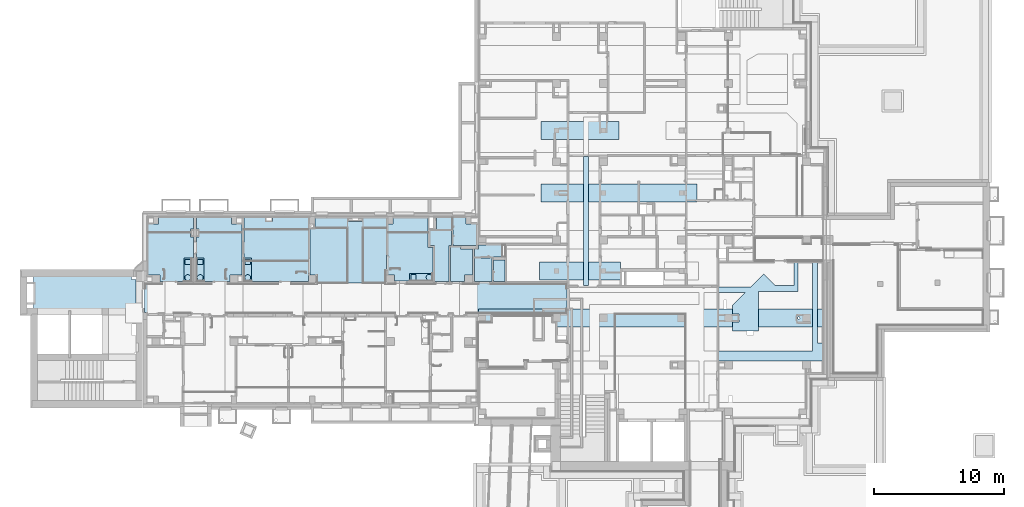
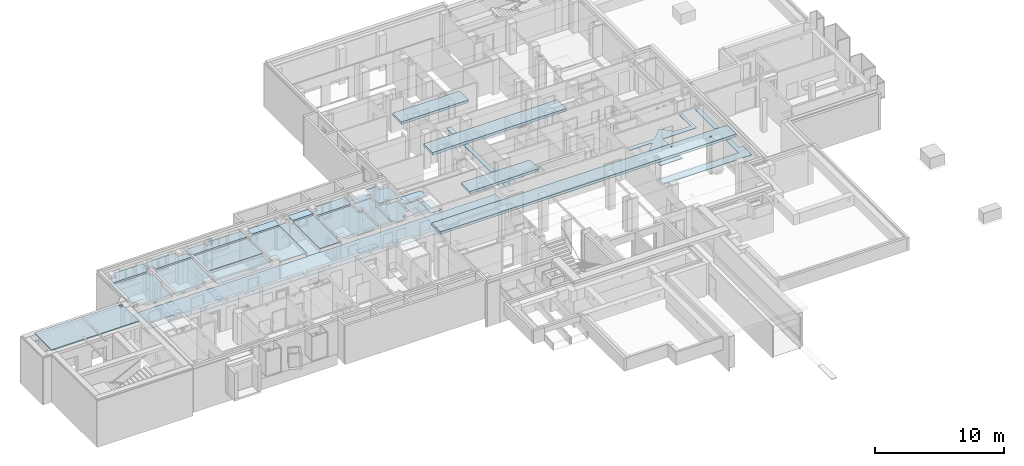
# One storey, part 6 of 84: 33 slabs, 3 openings.
"""IFC4 building model written with IfcOpenShell, lengths in metres."""

from ifc_helpers import new_model, entity, si_unit, converted_unit, derived_unit, frame, frame_2d, origin, origin_with_axes, place, context, subcontext, project, spatial, polyline, rectangle, circle, outline, extrude, material, element, save


model = new_model("IFC4")

# Units and contexts
model_context = context("Model", 3, precision=1e-05, world=origin())
body_context = subcontext(model_context, "Body", "Model", "MODEL_VIEW")
ifc_project = project(units=[si_unit("LENGTHUNIT", "METRE"), si_unit("AREAUNIT", "SQUARE_METRE"), si_unit("VOLUMEUNIT", "CUBIC_METRE"), si_unit("MASSUNIT", "GRAM", prefix="KILO"), converted_unit("PLANEANGLEUNIT", "DEGREE", entity("IfcPlaneAngleMeasure", 0.0174532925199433), si_unit("PLANEANGLEUNIT", "RADIAN"), dimensions=[0, 0, 0, 0, 0, 0, 0]), derived_unit("THERMALTRANSMITTANCEUNIT", [(si_unit("POWERUNIT", "WATT"), 1), (si_unit("THERMODYNAMICTEMPERATUREUNIT", "KELVIN"), -1), (si_unit("LENGTHUNIT", "METRE"), -2)]), derived_unit("VOLUMETRICFLOWRATEUNIT", [(si_unit("LENGTHUNIT", "METRE"), 3), (converted_unit("TIMEUNIT", "hour", entity("IfcTimeMeasure", 3600.0), si_unit("TIMEUNIT", "SECOND"), dimensions=[0, 0, 1, 0, 0, 0, 0]), -1), (si_unit("LENGTHUNIT", "METRE"), -1)])], contexts=[model_context])

# Site, building, storey
site_placement = place(None, origin())
site = spatial("IfcSite", under=ifc_project, at=site_placement, Name="3. ASŘ", CompositionType="ELEMENT")
building_placement = place(site_placement, origin())
building = spatial("IfcBuilding", under=site, at=building_placement, Name="Pavilon C", CompositionType="ELEMENT")
storey_placement = place(building_placement, frame((0.0, 0.0, -3.3)))
storey = spatial("IfcBuildingStorey", under=building, at=storey_placement, Name="Půdorys 1.PP", CompositionType="ELEMENT", Elevation=-3.3)

# Slab
ifc_material_1 = material(Name="RZT")
slab_1_placement = place(storey_placement, frame((29.55, 20.9, 2.95)))
element("IfcSlab", 1, at=slab_1_placement, inside=storey, material=ifc_material_1, PredefinedType="FLOOR", context=body_context, shape_type="SweptSolid", body=[
    extrude(rectangle(XDim=1.4, YDim=6.0, at=frame_2d((-3.0, 0.7), x_axis=(0.0, 1.0))), frame((6.0, 0.0, 0.0), z_axis=(0.0, 0.0, 1.0), x_axis=(1.0, 0.0, 0.0)), (0.0, 0.0, 1.0), 0.25),
])

# Slab, opening
ifc_material_2 = material(Name="PZD")
slab_2_placement = place(storey_placement, frame((-9.37499999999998, 7.80000000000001, 3.08)))
slab_2 = element("IfcSlab", 2, at=slab_2_placement, inside=storey, material=ifc_material_2, PredefinedType="FLOOR", context=body_context, shape_type="SweptSolid", body=[
    extrude(rectangle(XDim=7.84999999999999, YDim=2.70000000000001, at=frame_2d((3.925, 1.35), x_axis=(1.0, 0.0))), origin_with_axes(), (0.0, 0.0, 1.0), 0.1),
])
opening_1_placement = place(slab_2_placement, frame((7.49999999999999, 2.35, 0.0)))
element("IfcOpeningElement", 3, at=opening_1_placement, cuts=slab_2, Name="Prostup deskou", ObjectType="Opening", context=body_context, shape_type="SweptSolid", body=[
    extrude(rectangle(XDim=0.2, YDim=0.35, at=frame_2d((0.0, 1.81898940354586e-15), x_axis=(0.0, -1.0))), frame((0.175, 0.0999999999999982, 0.0), z_axis=(0.0, 0.0, 1.0), x_axis=(1.0, 0.0, 0.0)), (0.0, 0.0, 1.0), 0.1),
])

# Slabs
ifc_material_3 = material(Name="RZT")
slab_3_placement = place(storey_placement, frame((29.45, 10.1, 2.95)))
element("IfcSlab", 4, at=slab_3_placement, inside=storey, material=ifc_material_3, PredefinedType="FLOOR", context=body_context, shape_type="SweptSolid", body=[
    extrude(rectangle(XDim=1.4, YDim=6.2, at=frame_2d((-3.1, 0.7), x_axis=(0.0, 1.0))), frame((6.2, 0.0, 0.0), z_axis=(0.0, 0.0, 1.0), x_axis=(1.0, 0.0, 0.0)), (0.0, 0.0, 1.0), 0.25),
])
ifc_material_4 = material(Name="RZT")
slab_4_placement = place(storey_placement, frame((29.55, 16.1, 2.95)))
element("IfcSlab", 5, at=slab_4_placement, inside=storey, material=ifc_material_4, PredefinedType="FLOOR", context=body_context, shape_type="SweptSolid", body=[
    extrude(rectangle(XDim=1.4, YDim=12.0, at=frame_2d((-6.0, 0.7), x_axis=(0.0, 1.0))), frame((12.0, 0.0, 0.0), z_axis=(0.0, 0.0, 1.0), x_axis=(1.0, 0.0, 0.0)), (0.0, 0.0, 1.0), 0.25),
])

# Slab, openings
ifc_material_5 = material(Name="RZT")
slab_5_placement = place(storey_placement, frame((24.75, 6.49999999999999, 2.95)))
slab_5 = element("IfcSlab", 6, at=slab_5_placement, inside=storey, material=ifc_material_5, PredefinedType="FLOOR", context=body_context, shape_type="SweptSolid", body=[
    extrude(rectangle(XDim=1.4, YDim=26.5, at=frame_2d((-13.25, 0.700000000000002), x_axis=(0.0, 1.0))), frame((26.5, 0.0, 0.0), z_axis=(0.0, 0.0, 1.0), x_axis=(1.0, 0.0, 0.0)), (0.0, 0.0, 1.0), 0.25),
])
opening_2_placement = place(slab_5_placement, frame((24.525077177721, 0.625077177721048, 0.0)))
element("IfcOpeningElement", 7, at=opening_2_placement, cuts=slab_5, Name="Prostup deskou", ObjectType="Opening", context=body_context, shape_type="SweptSolid", body=[
    extrude(circle(Radius=0.0749999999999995, at=frame_2d((7.27595761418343e-15, 4.54747350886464e-15), x_axis=(1.0, 0.0))), frame((0.0749228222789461, 0.0749228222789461, 0.0), z_axis=(0.0, 0.0, 1.0), x_axis=(1.0, 0.0, 0.0)), (0.0, 0.0, 1.0), 0.25),
])
opening_3_placement = place(slab_5_placement, frame((21.2300280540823, 0.999964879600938, 0.0)))
element("IfcOpeningElement", 8, at=opening_3_placement, cuts=slab_5, Name="Prostup deskou", ObjectType="Opening", context=body_context, shape_type="SweptSolid", body=[
    extrude(circle(Radius=0.0500000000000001, at=frame_2d((2.18278728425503e-14, -9.09494701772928e-16), x_axis=(1.0, 0.0))), frame((0.0499485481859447, 0.0499485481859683, 0.0), z_axis=(0.0, 0.0, 1.0), x_axis=(1.0, 0.0, 0.0)), (0.0, 0.0, 1.0), 0.25),
])

# Slabs
ifc_material_6 = material(Name="Kuchyňská deska")
slab_6_placement = place(storey_placement, frame((2.15, 10.0, 0.82)))
element("IfcSlab", 9, at=slab_6_placement, inside=storey, material=ifc_material_6, PredefinedType="FLOOR", context=body_context, shape_type="SweptSolid", body=[
    extrude(outline(polyline([(0.6, 1.8), (0.0, 1.8), (9.09494701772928e-16, 0.0), (0.600000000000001, 0.0), (0.6, 1.8)]), holes=[polyline([(0.240471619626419, 0.0778370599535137), (0.211982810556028, 0.0875077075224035), (0.184999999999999, 0.10081415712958), (0.159984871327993, 0.117528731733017), (0.137365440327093, 0.137365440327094), (0.117528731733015, 0.159984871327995), (0.100814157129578, 0.185), (0.0875077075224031, 0.21198281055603), (0.0778370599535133, 0.24047161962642), (0.0719676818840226, 0.269978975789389), (0.0699999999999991, 0.3), (0.0719676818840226, 0.330021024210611), (0.0778370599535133, 0.35952838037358), (0.0875077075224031, 0.38801718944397), (0.100814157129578, 0.415), (0.117528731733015, 0.440015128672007), (0.137365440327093, 0.462634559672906), (0.159984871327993, 0.482471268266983), (0.184999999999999, 0.499185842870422), (0.211982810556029, 0.512492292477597), (0.240471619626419, 0.522162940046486), (0.269978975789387, 0.528032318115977), (0.299999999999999, 0.53), (0.330021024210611, 0.528032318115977), (0.359528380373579, 0.522162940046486), (0.38801718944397, 0.512492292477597), (0.414999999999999, 0.49918584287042), (0.440015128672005, 0.482471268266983), (0.462634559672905, 0.462634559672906), (0.482471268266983, 0.440015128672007), (0.49918584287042, 0.415), (0.512492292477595, 0.38801718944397), (0.522162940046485, 0.35952838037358), (0.528032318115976, 0.330021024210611), (0.529999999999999, 0.3), (0.528032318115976, 0.269978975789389), (0.522162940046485, 0.24047161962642), (0.512492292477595, 0.21198281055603), (0.49918584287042, 0.185), (0.482471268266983, 0.159984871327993), (0.462634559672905, 0.137365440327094), (0.440015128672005, 0.117528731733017), (0.414999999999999, 0.100814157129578), (0.38801718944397, 0.0875077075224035), (0.359528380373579, 0.0778370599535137), (0.330021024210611, 0.0719676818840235), (0.299999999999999, 0.07), (0.269978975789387, 0.0719676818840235), (0.240471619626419, 0.0778370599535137)]), polyline([(0.509387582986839, 1.32459577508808), (0.503796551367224, 1.31955947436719), (0.497319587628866, 1.31547423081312), (0.490153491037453, 1.31246417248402), (0.482515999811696, 1.31062075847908), (0.474639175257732, 1.31000000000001), (0.125360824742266, 1.31000000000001), (0.117484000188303, 1.31062075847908), (0.109846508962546, 1.31246417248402), (0.102680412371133, 1.31547423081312), (0.0962034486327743, 1.31955947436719), (0.0906124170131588, 1.32459577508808), (0.0860771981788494, 1.33043010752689), (0.0827355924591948, 1.33688519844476), (0.0806891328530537, 1.34376491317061), (0.0799999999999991, 1.35086021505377), (0.0799999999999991, 1.64913978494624), (0.0806891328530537, 1.65623508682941), (0.0827355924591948, 1.66311480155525), (0.0860771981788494, 1.66956989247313), (0.0906124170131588, 1.67540422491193), (0.0962034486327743, 1.68044052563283), (0.102680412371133, 1.6845257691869), (0.109846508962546, 1.68753582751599), (0.117484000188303, 1.68937924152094), (0.125360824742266, 1.69000000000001), (0.474639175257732, 1.69000000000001), (0.482515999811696, 1.68937924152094), (0.490153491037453, 1.68753582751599), (0.497319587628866, 1.6845257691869), (0.503796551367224, 1.68044052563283), (0.509387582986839, 1.67540422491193), (0.513922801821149, 1.66956989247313), (0.517264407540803, 1.66311480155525), (0.519310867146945, 1.65623508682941), (0.519999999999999, 1.64913978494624), (0.519999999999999, 1.35086021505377), (0.519310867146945, 1.34376491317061), (0.517264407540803, 1.33688519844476), (0.513922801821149, 1.33043010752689), (0.509387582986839, 1.32459577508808)])]), origin_with_axes(), (0.0, 0.0, 1.0), 0.03),
])
ifc_material_7 = material(Name="Kuchyňská deska")
slab_7_placement = place(storey_placement, frame((3.1, 10.0, 0.82)))
element("IfcSlab", 10, at=slab_7_placement, inside=storey, material=ifc_material_7, PredefinedType="FLOOR", context=body_context, shape_type="SweptSolid", body=[
    extrude(outline(polyline([(0.600000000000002, 1.8), (1.81898940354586e-15, 1.8), (0.0, 0.0), (0.6, 0.0), (0.600000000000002, 1.8)]), holes=[polyline([(0.359528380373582, 0.0778370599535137), (0.330021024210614, 0.0719676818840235), (0.300000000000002, 0.07), (0.26997897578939, 0.0719676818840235), (0.240471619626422, 0.0778370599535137), (0.211982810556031, 0.0875077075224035), (0.185000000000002, 0.100814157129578), (0.159984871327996, 0.117528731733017), (0.137365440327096, 0.137365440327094), (0.117528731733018, 0.159984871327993), (0.100814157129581, 0.185), (0.0875077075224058, 0.21198281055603), (0.077837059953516, 0.24047161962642), (0.0719676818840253, 0.269978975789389), (0.0700000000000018, 0.3), (0.0719676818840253, 0.330021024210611), (0.077837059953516, 0.35952838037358), (0.0875077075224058, 0.38801718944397), (0.100814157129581, 0.415), (0.117528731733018, 0.440015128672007), (0.137365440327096, 0.462634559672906), (0.159984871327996, 0.482471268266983), (0.185000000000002, 0.49918584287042), (0.211982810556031, 0.512492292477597), (0.240471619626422, 0.522162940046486), (0.26997897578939, 0.528032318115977), (0.300000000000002, 0.53), (0.330021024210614, 0.528032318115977), (0.359528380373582, 0.522162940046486), (0.388017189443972, 0.512492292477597), (0.415000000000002, 0.499185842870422), (0.440015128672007, 0.482471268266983), (0.462634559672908, 0.462634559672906), (0.482471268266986, 0.440015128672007), (0.499185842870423, 0.415), (0.512492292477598, 0.38801718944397), (0.522162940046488, 0.35952838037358), (0.528032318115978, 0.330021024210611), (0.530000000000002, 0.3), (0.528032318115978, 0.269978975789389), (0.522162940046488, 0.24047161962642), (0.512492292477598, 0.21198281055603), (0.499185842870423, 0.185), (0.482471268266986, 0.159984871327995), (0.462634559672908, 0.137365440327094), (0.440015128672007, 0.117528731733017), (0.415000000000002, 0.10081415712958), (0.388017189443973, 0.0875077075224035), (0.359528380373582, 0.0778370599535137)]), polyline([(0.0906124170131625, 1.32459577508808), (0.086077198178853, 1.33043010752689), (0.0827355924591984, 1.33688519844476), (0.0806891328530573, 1.34376491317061), (0.0800000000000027, 1.35086021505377), (0.0800000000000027, 1.64913978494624), (0.0806891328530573, 1.65623508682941), (0.0827355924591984, 1.66311480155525), (0.086077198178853, 1.66956989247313), (0.0906124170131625, 1.67540422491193), (0.096203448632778, 1.68044052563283), (0.102680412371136, 1.6845257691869), (0.109846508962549, 1.68753582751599), (0.117484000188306, 1.68937924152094), (0.12536082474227, 1.69000000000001), (0.474639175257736, 1.69000000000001), (0.482515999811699, 1.68937924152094), (0.490153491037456, 1.68753582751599), (0.497319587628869, 1.6845257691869), (0.503796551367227, 1.68044052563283), (0.509387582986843, 1.67540422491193), (0.513922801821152, 1.66956989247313), (0.517264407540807, 1.66311480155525), (0.519310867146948, 1.65623508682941), (0.520000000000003, 1.64913978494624), (0.520000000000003, 1.35086021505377), (0.519310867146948, 1.34376491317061), (0.517264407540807, 1.33688519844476), (0.513922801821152, 1.33043010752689), (0.509387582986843, 1.32459577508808), (0.503796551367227, 1.31955947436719), (0.497319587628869, 1.31547423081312), (0.490153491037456, 1.31246417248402), (0.482515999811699, 1.31062075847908), (0.474639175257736, 1.31000000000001), (0.12536082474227, 1.31000000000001), (0.117484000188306, 1.31062075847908), (0.109846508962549, 1.31246417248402), (0.102680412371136, 1.31547423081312), (0.096203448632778, 1.31955947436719), (0.0906124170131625, 1.32459577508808)])]), origin_with_axes(), (0.0, 0.0, 1.0), 0.03),
])
ifc_material_8 = material(Name="Kuchyňská deska")
slab_8_placement = place(storey_placement, frame((6.75, 10.0, 0.82)))
element("IfcSlab", 11, at=slab_8_placement, inside=storey, material=ifc_material_8, PredefinedType="FLOOR", context=body_context, shape_type="SweptSolid", body=[
    extrude(outline(polyline([(0.600000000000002, 1.8), (1.81898940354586e-15, 1.8), (0.0, 0.0), (0.6, 0.0), (0.600000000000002, 1.8)]), holes=[polyline([(0.359528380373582, 0.0778370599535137), (0.330021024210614, 0.0719676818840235), (0.300000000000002, 0.07), (0.26997897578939, 0.0719676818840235), (0.240471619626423, 0.0778370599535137), (0.211982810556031, 0.0875077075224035), (0.185000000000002, 0.100814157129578), (0.159984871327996, 0.117528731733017), (0.137365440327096, 0.137365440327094), (0.117528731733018, 0.159984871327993), (0.100814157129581, 0.185), (0.0875077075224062, 0.21198281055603), (0.0778370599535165, 0.24047161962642), (0.0719676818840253, 0.269978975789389), (0.0700000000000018, 0.3), (0.0719676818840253, 0.330021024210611), (0.0778370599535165, 0.35952838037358), (0.0875077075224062, 0.38801718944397), (0.100814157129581, 0.415), (0.117528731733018, 0.440015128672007), (0.137365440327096, 0.462634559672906), (0.159984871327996, 0.482471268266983), (0.185000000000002, 0.49918584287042), (0.211982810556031, 0.512492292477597), (0.240471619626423, 0.522162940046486), (0.26997897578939, 0.528032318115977), (0.300000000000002, 0.53), (0.330021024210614, 0.528032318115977), (0.359528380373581, 0.522162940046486), (0.388017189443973, 0.512492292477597), (0.415000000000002, 0.499185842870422), (0.440015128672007, 0.482471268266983), (0.462634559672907, 0.462634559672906), (0.482471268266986, 0.440015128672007), (0.499185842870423, 0.415), (0.512492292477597, 0.38801718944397), (0.522162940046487, 0.35952838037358), (0.528032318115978, 0.330021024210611), (0.530000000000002, 0.3), (0.528032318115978, 0.269978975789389), (0.522162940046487, 0.24047161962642), (0.512492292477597, 0.21198281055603), (0.499185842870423, 0.185), (0.482471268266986, 0.159984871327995), (0.462634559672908, 0.137365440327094), (0.440015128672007, 0.117528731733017), (0.415000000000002, 0.10081415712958), (0.388017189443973, 0.0875077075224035), (0.359528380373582, 0.0778370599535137)]), polyline([(0.0906124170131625, 1.32459577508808), (0.086077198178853, 1.33043010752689), (0.0827355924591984, 1.33688519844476), (0.0806891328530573, 1.34376491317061), (0.0800000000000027, 1.35086021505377), (0.0800000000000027, 1.64913978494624), (0.0806891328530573, 1.65623508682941), (0.0827355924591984, 1.66311480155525), (0.086077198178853, 1.66956989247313), (0.0906124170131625, 1.67540422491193), (0.0962034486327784, 1.68044052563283), (0.102680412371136, 1.6845257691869), (0.109846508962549, 1.68753582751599), (0.117484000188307, 1.68937924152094), (0.12536082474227, 1.69000000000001), (0.474639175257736, 1.69000000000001), (0.482515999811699, 1.68937924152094), (0.490153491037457, 1.68753582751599), (0.497319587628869, 1.6845257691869), (0.503796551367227, 1.68044052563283), (0.509387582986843, 1.67540422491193), (0.513922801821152, 1.66956989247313), (0.517264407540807, 1.66311480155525), (0.519310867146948, 1.65623508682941), (0.520000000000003, 1.64913978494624), (0.520000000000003, 1.35086021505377), (0.519310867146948, 1.34376491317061), (0.517264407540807, 1.33688519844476), (0.513922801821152, 1.33043010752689), (0.509387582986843, 1.32459577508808), (0.503796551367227, 1.31955947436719), (0.497319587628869, 1.31547423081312), (0.490153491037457, 1.31246417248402), (0.482515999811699, 1.31062075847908), (0.474639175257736, 1.31000000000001), (0.12536082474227, 1.31000000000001), (0.117484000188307, 1.31062075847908), (0.109846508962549, 1.31246417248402), (0.102680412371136, 1.31547423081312), (0.0962034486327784, 1.31955947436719), (0.0906124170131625, 1.32459577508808)])]), origin_with_axes(), (0.0, 0.0, 1.0), 0.03),
])
ifc_material_9 = material(Name="Kuchyňská deska")
slab_9_placement = place(storey_placement, frame((19.475, 10.025, 0.82)))
element("IfcSlab", 12, at=slab_9_placement, inside=storey, material=ifc_material_9, PredefinedType="FLOOR", context=body_context, shape_type="SweptSolid", body=[
    extrude(outline(polyline([(0.0, 0.600000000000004), (0.0, 3.63797880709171e-15), (1.8, 0.0), (1.8, 0.6), (0.0, 0.600000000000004)]), holes=[polyline([(1.72216294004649, 0.359528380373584), (1.72803231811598, 0.330021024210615), (1.73, 0.300000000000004), (1.72803231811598, 0.269978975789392), (1.72216294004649, 0.240471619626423), (1.7124922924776, 0.211982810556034), (1.69918584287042, 0.185000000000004), (1.68247126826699, 0.159984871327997), (1.66263455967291, 0.137365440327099), (1.64001512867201, 0.117528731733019), (1.615, 0.100814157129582), (1.58801718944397, 0.0875077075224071), (1.55952838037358, 0.0778370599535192), (1.53002102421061, 0.0719676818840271), (1.5, 0.0700000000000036), (1.46997897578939, 0.0719676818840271), (1.44047161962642, 0.0778370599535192), (1.41198281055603, 0.0875077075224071), (1.385, 0.100814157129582), (1.35998487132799, 0.117528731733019), (1.33736544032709, 0.137365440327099), (1.31752873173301, 0.159984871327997), (1.30081415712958, 0.185000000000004), (1.2875077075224, 0.211982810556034), (1.27783705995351, 0.240471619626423), (1.27196768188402, 0.269978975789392), (1.27, 0.300000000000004), (1.27196768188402, 0.330021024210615), (1.27783705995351, 0.359528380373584), (1.2875077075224, 0.388017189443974), (1.30081415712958, 0.415000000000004), (1.31752873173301, 0.44001512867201), (1.33736544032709, 0.462634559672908), (1.35998487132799, 0.482471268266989), (1.385, 0.499185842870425), (1.41198281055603, 0.5124922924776), (1.44047161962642, 0.522162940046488), (1.46997897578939, 0.52803231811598), (1.5, 0.530000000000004), (1.53002102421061, 0.52803231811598), (1.55952838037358, 0.522162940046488), (1.58801718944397, 0.5124922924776), (1.615, 0.499185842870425), (1.64001512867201, 0.482471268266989), (1.66263455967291, 0.462634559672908), (1.68247126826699, 0.44001512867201), (1.69918584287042, 0.415000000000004), (1.7124922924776, 0.388017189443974), (1.72216294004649, 0.359528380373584)]), polyline([(0.475404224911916, 0.0906124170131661), (0.469569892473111, 0.0860771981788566), (0.463114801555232, 0.0827355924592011), (0.456235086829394, 0.0806891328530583), (0.44913978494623, 0.0800000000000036), (0.150860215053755, 0.0800000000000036), (0.143764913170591, 0.0806891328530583), (0.136885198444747, 0.0827355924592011), (0.130430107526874, 0.0860771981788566), (0.12459577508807, 0.0906124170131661), (0.119559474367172, 0.0962034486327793), (0.115474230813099, 0.102680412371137), (0.112464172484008, 0.10984650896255), (0.110620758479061, 0.117484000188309), (0.109999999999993, 0.125360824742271), (0.109999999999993, 0.474639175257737), (0.110620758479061, 0.482515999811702), (0.112464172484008, 0.490153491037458), (0.115474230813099, 0.49731958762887), (0.119559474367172, 0.503796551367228), (0.12459577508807, 0.509387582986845), (0.130430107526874, 0.513922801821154), (0.136885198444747, 0.51726440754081), (0.143764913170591, 0.519310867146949), (0.150860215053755, 0.520000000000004), (0.44913978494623, 0.520000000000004), (0.456235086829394, 0.519310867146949), (0.463114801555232, 0.51726440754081), (0.469569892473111, 0.513922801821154), (0.475404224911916, 0.509387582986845), (0.48044052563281, 0.503796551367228), (0.484525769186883, 0.49731958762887), (0.487535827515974, 0.490153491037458), (0.489379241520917, 0.482515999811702), (0.489999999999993, 0.474639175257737), (0.489999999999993, 0.125360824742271), (0.489379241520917, 0.117484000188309), (0.487535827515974, 0.10984650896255), (0.484525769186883, 0.102680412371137), (0.48044052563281, 0.0962034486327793), (0.475404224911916, 0.0906124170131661)])]), origin_with_axes(), (0.0, 0.0, 1.0), 0.03),
])
ifc_material_10 = material(Name="Demontáž +montáž kazetového podh")
slab_10_placement = place(storey_placement, frame((32.8255679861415, 9.69999999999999, 2.22)))
element("IfcSlab", 13, at=slab_10_placement, inside=storey, material=ifc_material_10, PredefinedType="FLOOR", context=body_context, shape_type="SweptSolid", body=[
    extrude(rectangle(XDim=0.4, YDim=9.9, at=frame_2d((0.2, 4.95), x_axis=(1.0, 0.0))), origin_with_axes(), (0.0, 0.0, 1.0), 0.05),
])
ifc_material_11 = material(Name="Demontáž +montáž podhledu FEAL")
slab_11_placement = place(storey_placement, frame((43.2, 3.89999999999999, 2.79)))
element("IfcSlab", 14, at=slab_11_placement, inside=storey, material=ifc_material_11, PredefinedType="FLOOR", context=body_context, shape_type="SweptSolid", body=[
    extrude(outline(polyline([(4.3441102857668, 3.48360012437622), (3.46009864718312, 4.36768942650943), (2.46858655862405, 3.37626443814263), (0.0, 3.37626443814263), (0.0, 2.97626443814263), (2.0685514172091, 2.97626443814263), (1.05, 1.95780249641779), (1.05, 1.30126443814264), (1.575, 1.30126443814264), (1.575, 0.701264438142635), (1.05, 0.701264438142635), (1.05, 0.0), (3.0724766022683, 0.0), (3.0724766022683, 3.02799609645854), (6.07417748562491, 3.02799609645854), (6.07417748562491, 5.25126443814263), (5.77417748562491, 5.25126443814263), (5.77417748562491, 3.48360012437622), (4.3441102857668, 3.48360012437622)])), frame((0.0, 2.29873556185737, 0.0), z_axis=(0.0, 0.0, 1.0), x_axis=(1.0, 0.0, 0.0)), (0.0, 0.0, 1.0), 0.05),
    extrude(outline(polyline([(0.0, 0.749999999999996), (0.0, 4.54747350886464e-16), (7.95, 0.0), (7.95, 1.4), (7.6, 1.4), (7.6, 7.55), (7.2, 7.55), (7.2, 0.749999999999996), (0.0, 0.749999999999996)])), origin_with_axes(), (0.0, 0.0, 1.0), 0.05),
])
ifc_material_12 = material(Name="Kazetový podhled bílý 0,6×0,6")
slab_12_placement = place(storey_placement, frame((11.825, 9.915, 2.6)))
element("IfcSlab", 15, at=slab_12_placement, inside=storey, material=ifc_material_12, PredefinedType="FLOOR", context=body_context, shape_type="SweptSolid", body=[
    extrude(outline(polyline([(2.875, 4.185), (0.374999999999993, 4.185), (0.374999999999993, 4.11000000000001), (0.0, 4.11000000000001), (0.0, 0.585), (0.475, 0.585), (0.475, 0.0), (2.875, 0.0), (2.875, 4.185)])), origin_with_axes(), (0.0, 0.0, 1.0), 0.05),
])
ifc_material_13 = material(Name="Kazetový podhled bílý 0,6×0,6")
slab_13_placement = place(storey_placement, frame((15.9, 9.915, 2.6)))
element("IfcSlab", 16, at=slab_13_placement, inside=storey, material=ifc_material_13, PredefinedType="FLOOR", context=body_context, shape_type="SweptSolid", body=[
    extrude(rectangle(XDim=4.185, YDim=1.8, at=frame_2d((0.899999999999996, -2.0925), x_axis=(0.0, -1.0))), frame((0.0, 4.185, 0.0), z_axis=(0.0, 0.0, 1.0), x_axis=(1.0, 0.0, 0.0)), (0.0, 0.0, 1.0), 0.05),
])
ifc_material_14 = material(Name="Kazetový podhled bílý 0,6×0,6")
slab_14_placement = place(storey_placement, frame((24.45, 11.9, 2.6)))
element("IfcSlab", 17, at=slab_14_placement, inside=storey, material=ifc_material_14, PredefinedType="FLOOR", context=body_context, shape_type="SweptSolid", body=[
    extrude(outline(polyline([(0.0, 0.6), (0.0, 3.63797880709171e-15), (2.15, 0.0), (2.15, 0.9), (0.300000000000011, 0.900000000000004), (0.300000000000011, 0.6), (0.0, 0.6)])), origin_with_axes(), (0.0, 0.0, 1.0), 0.05),
])
ifc_material_15 = material(Name="Kazetový podhled bílý 0,6×0,6")
slab_15_placement = place(storey_placement, frame((24.45, 10.0, 2.6)))
element("IfcSlab", 18, at=slab_15_placement, inside=storey, material=ifc_material_15, PredefinedType="FLOOR", context=body_context, shape_type="SweptSolid", body=[
    extrude(rectangle(XDim=1.8, YDim=1.35, at=frame_2d((-0.675, 0.9), x_axis=(0.0, 1.0))), frame((1.35, 0.0, 0.0), z_axis=(0.0, 0.0, 1.0), x_axis=(1.0, 0.0, 0.0)), (0.0, 0.0, 1.0), 0.05),
])
ifc_material_16 = material(Name="Kazetový podhled bílý 0,6×0,6")
slab_16_placement = place(storey_placement, frame((22.6, 10.0, 2.6)))
element("IfcSlab", 19, at=slab_16_placement, inside=storey, material=ifc_material_16, PredefinedType="FLOOR", context=body_context, shape_type="SweptSolid", body=[
    extrude(outline(polyline([(0.0, 0.0), (1.1, 0.0), (1.1, 0.5), (1.7, 0.5), (1.7, 2.5), (0.8, 2.5), (0.8, 2.65), (0.0, 2.65), (0.0, 0.0)])), origin_with_axes(), (0.0, 0.0, 1.0), 0.05),
])
ifc_material_17 = material(Name="Kazetový podhled bílý 0,6×0,6")
slab_17_placement = place(storey_placement, frame((21.05, 10.0, 2.6)))
element("IfcSlab", 20, at=slab_17_placement, inside=storey, material=ifc_material_17, PredefinedType="FLOOR", context=body_context, shape_type="SweptSolid", body=[
    extrude(outline(polyline([(1.45, 0.0), (1.45, 2.75), (1.65, 2.75), (1.65, 3.9), (0.0, 3.9), (0.0, 2.75), (0.35, 2.75), (0.35, 0.0), (1.45, 0.0)])), origin_with_axes(), (0.0, 0.0, 1.0), 0.05),
])
ifc_material_18 = material(Name="Kazetový podhled hyg. 0,6×0,6")
slab_18_placement = place(storey_placement, frame((17.825, 10.025, 2.6)))
element("IfcSlab", 21, at=slab_18_placement, inside=storey, material=ifc_material_18, PredefinedType="FLOOR", context=body_context, shape_type="SweptSolid", body=[
    extrude(outline(polyline([(0.475000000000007, 0.475), (0.475000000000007, 0.0), (3.45, 3.63797880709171e-15), (3.45, 2.6), (3.075, 2.6), (3.075, 3.73500000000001), (0.0, 3.73500000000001), (0.0, 0.475), (0.475000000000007, 0.475)])), origin_with_axes(), (0.0, 0.0, 1.0), 0.05),
])
ifc_material_19 = material(Name="Kazetový podhled hyg. 0,6×0,6")
slab_19_placement = place(storey_placement, frame((6.75000000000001, 11.5999978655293, 2.6)))
element("IfcSlab", 22, at=slab_19_placement, inside=storey, material=ifc_material_19, PredefinedType="FLOOR", context=body_context, shape_type="SweptSolid", body=[
    extrude(rectangle(XDim=2.36000213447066, YDim=4.95000000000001, at=frame_2d((2.475, -1.18000106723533), x_axis=(0.0, -1.0))), frame((0.0, 2.36000213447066, 0.0), z_axis=(0.0, 0.0, 1.0), x_axis=(1.0, 0.0, 0.0)), (0.0, 0.0, 1.0), 0.05),
])
ifc_material_20 = material(Name="Kazetový podhled bílý 0,6×0,6")
slab_20_placement = place(storey_placement, frame((22.8, 12.75, 2.7)))
element("IfcSlab", 23, at=slab_20_placement, inside=storey, material=ifc_material_20, PredefinedType="FLOOR", context=body_context, shape_type="SweptSolid", body=[
    extrude(outline(polyline([(1.0, 2.15), (0.0, 2.15), (0.0, 0.0), (1.8, 0.0), (1.8, 1.65000000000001), (1.0, 1.65000000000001), (1.0, 2.15)])), origin_with_axes(), (0.0, 0.0, 1.0), 0.05),
])
ifc_material_21 = material(Name="Kazetový podhled hyg. 0,6×0,6")
slab_21_placement = place(storey_placement, frame((-0.599999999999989, 13.8, 2.7)))
element("IfcSlab", 24, at=slab_21_placement, inside=storey, material=ifc_material_21, PredefinedType="FLOOR", context=body_context, shape_type="SweptSolid", body=[
    extrude(outline(polyline([(0.0, 0.0), (3.27499999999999, 0.0), (3.27499999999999, 0.229999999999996), (3.49999999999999, 0.229999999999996), (3.49999999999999, 1.1), (0.799999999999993, 1.1), (0.799999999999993, 0.6), (1.13686837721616e-16, 0.6), (0.0, 0.0)])), origin_with_axes(), (0.0, 0.0, 1.0), 0.05),
])
ifc_material_22 = material(Name="Kazetový podhled bílý 0,6×0,6")
slab_22_placement = place(storey_placement, frame((12.2, 14.14, 2.7)))
element("IfcSlab", 25, at=slab_22_placement, inside=storey, material=ifc_material_22, PredefinedType="FLOOR", context=body_context, shape_type="SweptSolid", body=[
    extrude(rectangle(XDim=0.735, YDim=2.50000000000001, at=frame_2d((1.25, -0.3675), x_axis=(0.0, -1.0))), frame((0.0, 0.735, 0.0), z_axis=(0.0, 0.0, 1.0), x_axis=(1.0, 0.0, 0.0)), (0.0, 0.0, 1.0), 0.05),
])
ifc_material_23 = material(Name="Kazetový podhled bílý 0,6×0,6")
slab_23_placement = place(storey_placement, frame((15.9, 14.14, 2.7)))
element("IfcSlab", 26, at=slab_23_placement, inside=storey, material=ifc_material_23, PredefinedType="FLOOR", context=body_context, shape_type="SweptSolid", body=[
    extrude(rectangle(XDim=1.8, YDim=0.735, at=frame_2d((0.899999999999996, 0.3675), x_axis=(1.0, 0.0))), origin_with_axes(), (0.0, 0.0, 1.0), 0.05),
])
ifc_material_24 = material(Name="Kazetový podhled hyg. 0,6×0,6")
slab_24_placement = place(storey_placement, frame((3.1, 13.8, 2.7)))
element("IfcSlab", 27, at=slab_24_placement, inside=storey, material=ifc_material_24, PredefinedType="FLOOR", context=body_context, shape_type="SweptSolid", body=[
    extrude(outline(polyline([(0.0, 0.229999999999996), (0.225, 0.229999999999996), (0.225, 0.0), (3.5, 0.0), (3.5, 0.599999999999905), (2.7, 0.6), (2.7, 1.1), (0.0, 1.1), (0.0, 0.229999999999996)])), origin_with_axes(), (0.0, 0.0, 1.0), 0.05),
])
ifc_material_25 = material(Name="Kazetový podhled hyg. 0,6×0,6")
slab_25_placement = place(storey_placement, frame((17.825, 13.8, 2.7)))
element("IfcSlab", 28, at=slab_25_placement, inside=storey, material=ifc_material_25, PredefinedType="FLOOR", context=body_context, shape_type="SweptSolid", body=[
    extrude(outline(polyline([(0.375, 0.6), (0.0, 0.6), (0.0, 0.0), (3.075, 0.0), (3.075, 1.075), (0.375, 1.075), (0.375, 0.6)])), origin_with_axes(), (0.0, 0.0, 1.0), 0.05),
])
ifc_material_26 = material(Name="Kazetový podhled hyg. 0,6×0,6")
slab_26_placement = place(storey_placement, frame((6.75, 13.9999999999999, 2.7)))
element("IfcSlab", 29, at=slab_26_placement, inside=storey, material=ifc_material_26, PredefinedType="FLOOR", context=body_context, shape_type="SweptSolid", body=[
    extrude(outline(polyline([(2.20000000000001, 0.900000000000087), (2.20000000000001, 0.6), (1.65000000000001, 0.6), (1.65000000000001, 0.900000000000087), (0.0, 0.900000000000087), (9.09494701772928e-16, 0.0), (4.95, 0.0), (4.95, 0.900000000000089), (2.20000000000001, 0.900000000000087)])), origin_with_axes(), (0.0, 0.0, 1.0), 0.05),
])
ifc_material_27 = material(Name="Kazetový podhled bílý 0,6×0,6")
slab_27_placement = place(storey_placement, frame((-0.874999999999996, 7.525, 2.3)))
element("IfcSlab", 30, at=slab_27_placement, inside=storey, material=ifc_material_27, PredefinedType="FLOOR", context=body_context, shape_type="SweptSolid", body=[
    extrude(outline(polyline([(0.175, 0.0), (32.45, 0.0), (32.45, 2.35000000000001), (2.27373675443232e-16, 2.35000000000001), (0.0, 0.100000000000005), (0.175, 0.100000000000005), (0.175, 0.0)])), origin_with_axes(), (0.0, 0.0, 1.0), 0.05),
])
ifc_material_28 = material(Name="Kazetový podhled bílý 0,6×0,6")
slab_28_placement = place(storey_placement, frame((14.7, 9.875, 2.3)))
element("IfcSlab", 31, at=slab_28_placement, inside=storey, material=ifc_material_28, PredefinedType="FLOOR", context=body_context, shape_type="SweptSolid", body=[
    extrude(rectangle(XDim=1.2, YDim=4.75, at=frame_2d((0.6, 2.375), x_axis=(1.0, 0.0))), origin_with_axes(), (0.0, 0.0, 1.0), 0.05),
])
ifc_material_29 = material(Name="Kazetový podhled bílý 0,6×0,6")
slab_29_placement = place(storey_placement, frame((25.9, 10.0, 2.4)))
element("IfcSlab", 32, at=slab_29_placement, inside=storey, material=ifc_material_29, PredefinedType="FLOOR", context=body_context, shape_type="SweptSolid", body=[
    extrude(rectangle(XDim=0.9, YDim=1.65, at=frame_2d((0.45, 0.825), x_axis=(1.0, 0.0))), origin_with_axes(), (0.0, 0.0, 1.0), 0.05),
])
ifc_material_30 = material(Name="Kazetový podhled bílý 0,6×0,6")
slab_30_placement = place(storey_placement, frame((21.525, 14.0, 2.4)))
element("IfcSlab", 33, at=slab_30_placement, inside=storey, material=ifc_material_30, PredefinedType="FLOOR", context=body_context, shape_type="SweptSolid", body=[
    extrude(rectangle(XDim=0.9, YDim=1.235, at=frame_2d((0.6175, -0.45), x_axis=(0.0, -1.0))), frame((0.0, 0.9, 0.0), z_axis=(0.0, 0.0, 1.0), x_axis=(1.0, 0.0, 0.0)), (0.0, 0.0, 1.0), 0.05),
])
ifc_material_31 = material(Name="Kazetový podhled hyg. 0,6×0,6")
slab_31_placement = place(storey_placement, frame((-0.599999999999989, 10.0, 2.6)))
element("IfcSlab", 34, at=slab_31_placement, inside=storey, material=ifc_material_31, PredefinedType="FLOOR", context=body_context, shape_type="SweptSolid", body=[
    extrude(outline(polyline([(0.9, 0.500000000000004), (0.9, 3.63797880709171e-15), (3.34999999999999, 0.0), (3.34999999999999, 1.8), (3.49999999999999, 1.8), (3.49999999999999, 3.43), (3.27499999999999, 3.43), (3.27499999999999, 3.76), (3.41060513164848e-16, 3.76), (0.0, 0.500000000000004), (0.9, 0.500000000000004)])), origin_with_axes(), (0.0, 0.0, 1.0), 0.05),
])
ifc_material_32 = material(Name="Kazetový podhled hyg. 0,6×0,6")
slab_32_placement = place(storey_placement, frame((3.1, 10.0, 2.6)))
element("IfcSlab", 35, at=slab_32_placement, inside=storey, material=ifc_material_32, PredefinedType="FLOOR", context=body_context, shape_type="SweptSolid", body=[
    extrude(outline(polyline([(0.225000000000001, 3.76), (0.225000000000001, 3.43), (1.36424205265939e-15, 3.43), (0.0, 0.0), (2.60000000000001, 0.0), (2.60000000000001, 0.5), (3.5, 0.5), (3.5, 3.76), (0.225000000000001, 3.76)])), origin_with_axes(), (0.0, 0.0, 1.0), 0.05),
])
ifc_material_33 = material(Name="Kazetový podhled hyg. 0,6×0,6")
slab_33_placement = place(storey_placement, frame((6.75, 10.0, 2.4)))
element("IfcSlab", 36, at=slab_33_placement, inside=storey, material=ifc_material_33, PredefinedType="FLOOR", context=body_context, shape_type="SweptSolid", body=[
    extrude(rectangle(XDim=1.59999786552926, YDim=4.95000000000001, at=frame_2d((2.475, -0.799998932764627), x_axis=(-1.13686989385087e-15, -1.0))), frame((1.81898940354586e-15, 1.59999786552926, 0.0), z_axis=(0.0, 0.0, 1.0), x_axis=(1.0, 0.0, 0.0)), (0.0, 0.0, 1.0), 0.05),
])

save(model, "model.ifc")
